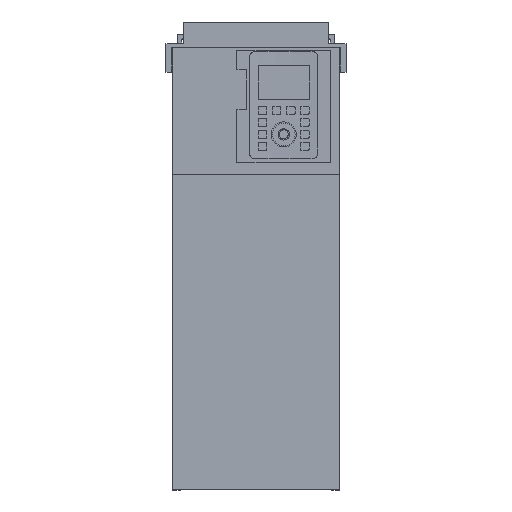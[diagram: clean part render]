
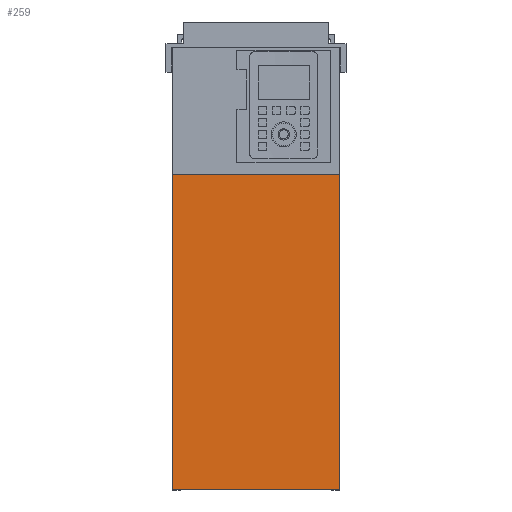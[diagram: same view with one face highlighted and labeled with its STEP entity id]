
A CAD part, top view. The second image highlights one B-rep face of the part: STEP entity #259.
In plain terms, the highlighted planar face has unit normal (0, 0, 1).
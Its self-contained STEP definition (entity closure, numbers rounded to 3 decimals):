
#5=DIRECTION('',(0.,1.,0.));
#6=VECTOR('',#5,369.571);
#7=CARTESIAN_POINT('',(-98.,-294.086,15.544));
#8=LINE('',#7,#6);
#9=DIRECTION('',(-1.,0.,0.));
#10=VECTOR('',#9,196.);
#11=CARTESIAN_POINT('',(98.,-294.086,15.544));
#12=LINE('',#11,#10);
#17=DIRECTION('',(-1.,0.,0.));
#18=VECTOR('',#17,196.);
#19=CARTESIAN_POINT('',(98.,75.485,15.544));
#20=LINE('',#19,#18);
#81=DIRECTION('',(0.,1.,0.));
#82=VECTOR('',#81,369.571);
#83=CARTESIAN_POINT('',(98.,-294.086,15.544));
#84=LINE('',#83,#82);
#169=CARTESIAN_POINT('',(-98.,-294.086,15.544));
#170=CARTESIAN_POINT('',(-98.,75.485,15.544));
#171=VERTEX_POINT('',#169);
#172=VERTEX_POINT('',#170);
#181=CARTESIAN_POINT('',(98.,75.485,15.544));
#182=VERTEX_POINT('',#181);
#183=CARTESIAN_POINT('',(98.,-294.086,15.544));
#184=VERTEX_POINT('',#183);
#245=CARTESIAN_POINT('',(-98.,75.485,15.544));
#246=DIRECTION('',(0.,0.,1.));
#247=DIRECTION('',(0.,-1.,0.));
#248=AXIS2_PLACEMENT_3D('',#245,#246,#247);
#249=PLANE('',#248);
#250=ORIENTED_EDGE('',*,*,#230,.T.);
#252=ORIENTED_EDGE('',*,*,#251,.F.);
#254=ORIENTED_EDGE('',*,*,#253,.F.);
#256=ORIENTED_EDGE('',*,*,#255,.T.);
#257=EDGE_LOOP('',(#250,#252,#254,#256));
#258=FACE_OUTER_BOUND('',#257,.F.);
#230=EDGE_CURVE('',#171,#172,#8,.T.);
#251=EDGE_CURVE('',#182,#172,#20,.T.);
#253=EDGE_CURVE('',#184,#182,#84,.T.);
#255=EDGE_CURVE('',#184,#171,#12,.T.);
#259=ADVANCED_FACE('',(#258),#249,.T.);
